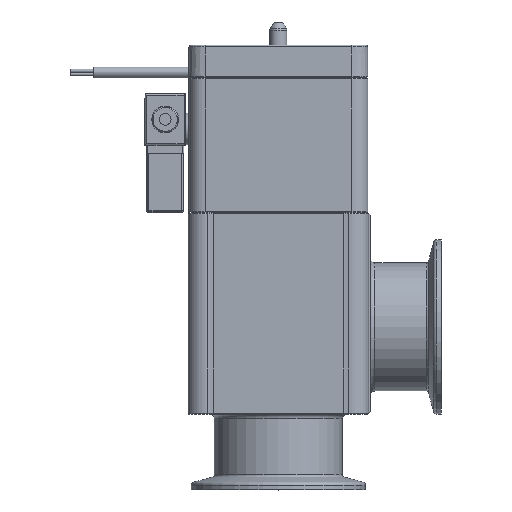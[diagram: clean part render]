
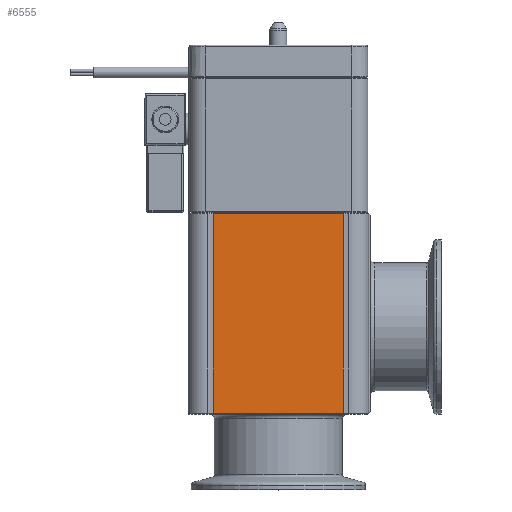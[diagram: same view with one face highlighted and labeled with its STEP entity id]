
A CAD part, top view. The second image highlights one B-rep face of the part: STEP entity #6555.
In plain terms, the highlighted planar face has unit normal (0, 0, 1).
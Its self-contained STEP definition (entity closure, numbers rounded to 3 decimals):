
#2685=LINE('',#23633,#3711);
#2686=LINE('',#23637,#3712);
#2687=LINE('',#23639,#3713);
#2688=LINE('',#23641,#3714);
#3711=VECTOR('',#18902,1.);
#3712=VECTOR('',#18907,1.);
#3713=VECTOR('',#18908,1.);
#3714=VECTOR('',#18909,1.);
#6555=ADVANCED_FACE('',(#7654),#7160,.T.);
#7160=PLANE('',#16361);
#7654=FACE_OUTER_BOUND('',#8474,.T.);
#8474=EDGE_LOOP('',(#10879,#10880,#10881,#10882));
#10879=ORIENTED_EDGE('',*,*,#14469,.F.);
#10880=ORIENTED_EDGE('',*,*,#14471,.T.);
#10881=ORIENTED_EDGE('',*,*,#14472,.T.);
#10882=ORIENTED_EDGE('',*,*,#14473,.F.);
#12993=VERTEX_POINT('',#23632);
#12994=VERTEX_POINT('',#23634);
#12995=VERTEX_POINT('',#23638);
#12996=VERTEX_POINT('',#23640);
#14469=EDGE_CURVE('',#12993,#12994,#2685,.T.);
#14471=EDGE_CURVE('',#12993,#12995,#2686,.T.);
#14472=EDGE_CURVE('',#12995,#12996,#2687,.T.);
#14473=EDGE_CURVE('',#12994,#12996,#2688,.T.);
#16361=AXIS2_PLACEMENT_3D('',#23642,#18910,#18911);
#18902=DIRECTION('',(0.,-1.,0.));
#18907=DIRECTION('',(-1.,0.,0.));
#18908=DIRECTION('',(0.,-1.,0.));
#18909=DIRECTION('',(-1.,0.,0.));
#18910=DIRECTION('',(0.,0.,1.));
#18911=DIRECTION('',(1.,0.,0.));
#23632=CARTESIAN_POINT('',(27.938,86.1,38.5));
#23633=CARTESIAN_POINT('',(27.938,90.,38.5));
#23634=CARTESIAN_POINT('',(27.938,0.4,38.5));
#23637=CARTESIAN_POINT('',(27.938,86.1,38.5));
#23638=CARTESIAN_POINT('',(-27.938,86.1,38.5));
#23639=CARTESIAN_POINT('',(-27.938,90.,38.5));
#23640=CARTESIAN_POINT('',(-27.938,0.4,38.5));
#23641=CARTESIAN_POINT('',(27.938,0.4,38.5));
#23642=CARTESIAN_POINT('',(27.938,90.,38.5));
